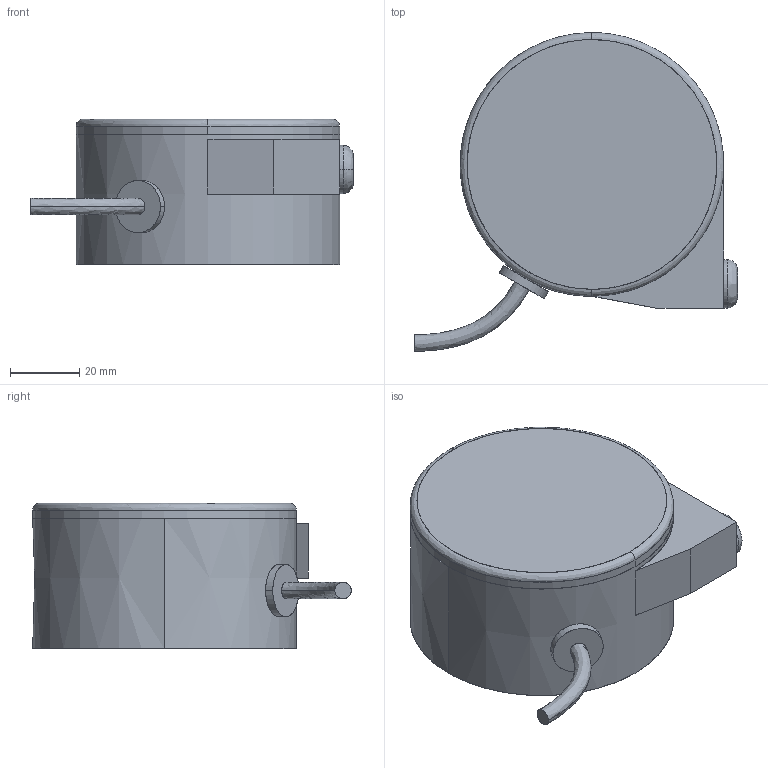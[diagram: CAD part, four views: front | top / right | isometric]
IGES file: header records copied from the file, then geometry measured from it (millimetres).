
Start section: SolidWorks IGES file using analytic representation for surfaces
Bounding box: 93.18 x 91.87 x 42 mm (x, y, z)
Surface area: 30450.6 mm2 (no closed solid volume)
Topology: 0 solids, 0 shells, 42 faces, 920 edges, 920 vertices
Faces by surface type: bspline 24, revolution 18
